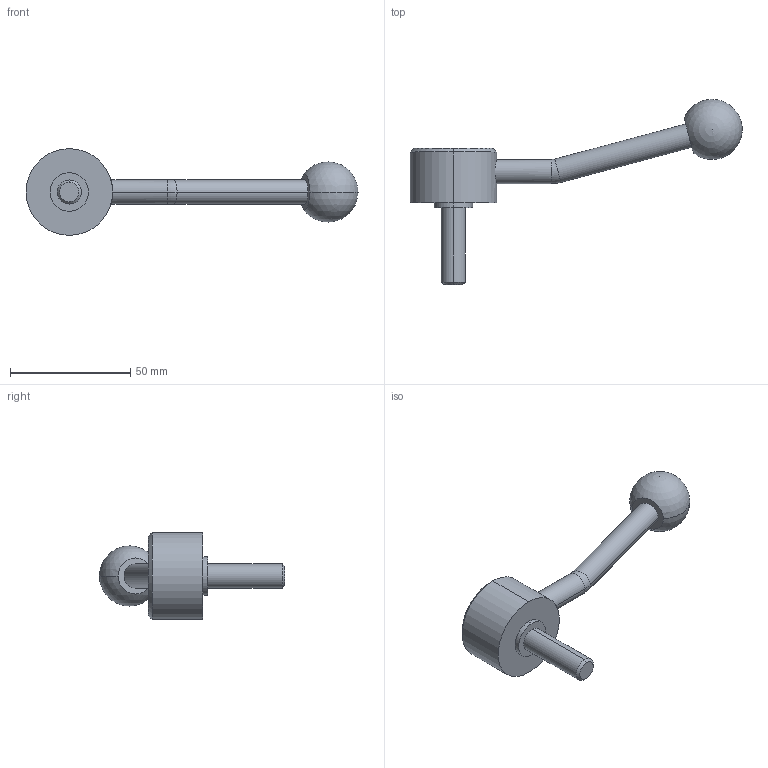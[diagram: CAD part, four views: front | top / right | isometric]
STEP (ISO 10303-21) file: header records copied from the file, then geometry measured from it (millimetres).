
FILE_DESCRIPTION (( 'STEP AP214' ), '1' );
FILE_NAME ('125.5-36-M10-32-E.step', '2020-02-18T11:31:27', ( '' ), ( '' ), 'SwSTEP 2.0', 'SolidWorks 2019', '' );
FILE_SCHEMA (( 'AUTOMOTIVE_DESIGN' ));
Length unit declared in the file: millimetre
Products named in the file (1): 125.5-36-M10-32-E
Bounding box: 137.95 x 77 x 36 mm (x, y, z)
Volume: 40165.2 mm3; surface area: 9943 mm2
Topology: 1 solids, 1 shells, 26 faces, 55 edges, 34 vertices
Faces by surface type: cylinder 12, plane 6, cone 4, torus 2, sphere 2
Entity records: 840 total; most frequent: CARTESIAN_POINT 182, DIRECTION 134, ORIENTED_EDGE 100, AXIS2_PLACEMENT_3D 59, EDGE_CURVE 50, CIRCLE 32, VERTEX_POINT 31, EDGE_LOOP 31
